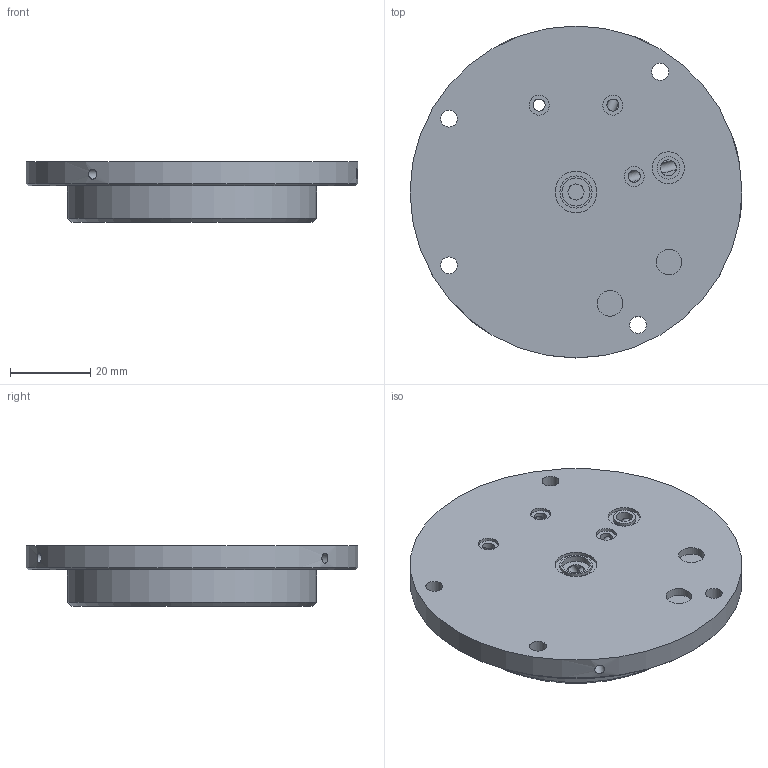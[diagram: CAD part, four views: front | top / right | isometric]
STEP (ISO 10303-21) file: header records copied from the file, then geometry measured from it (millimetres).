
FILE_DESCRIPTION(('STEP AP214'),'1');
FILE_NAME('.stp','2024-11-05T00:09:37',(' '),(' '),'Spatial InterOp 3D',' ',' ');
FILE_SCHEMA(('AUTOMOTIVE_DESIGN { 1 0 10303 214 1 1 1 1 }'));
Length unit declared in the file: millimetre
Products named in the file (1): SGE-G1I-B
Bounding box: 82.6 x 82.6 x 15 mm (x, y, z)
Volume: 55230.5 mm3; surface area: 16593.3 mm2
Topology: 1 solids, 1 shells, 70 faces, 183 edges, 120 vertices
Faces by surface type: cylinder 35, plane 24, cone 11
Full cylindrical faces by diameter (mm): 2.5 x7, 3 x3, 4 x2, 4.2 x4, 5 x3, 5.6 x1, 6.4 x2, 7 x1, 7.6 x4, 8 x2, 8.5 x3, 10.4 x1, 62 x1, 82.6 x1
Entity records: 3024 total; most frequent: CARTESIAN_POINT 1034, DIRECTION 290, ORIENTED_EDGE 214, EDGE_LOOP 153, AXIS2_PLACEMENT_3D 145, EDGE_CURVE 107, FACE_OUTER_BOUND 105, VERTEX_POINT 95
